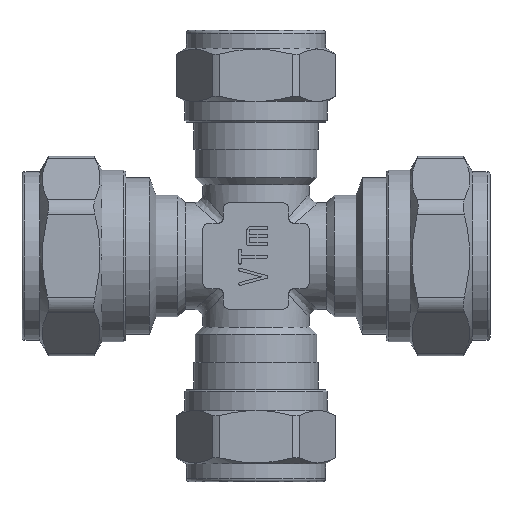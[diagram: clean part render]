
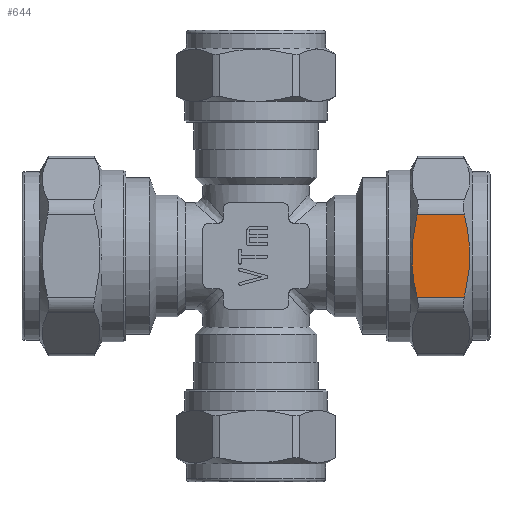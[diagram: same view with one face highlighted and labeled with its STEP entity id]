
A CAD part, left-side view. The second image highlights one B-rep face of the part: STEP entity #644.
In plain terms, the highlighted planar face has unit normal (-1, 0, 0).
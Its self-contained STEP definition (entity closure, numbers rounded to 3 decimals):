
#644=ADVANCED_FACE('',(#5761),#5763,.T.);
#5761=FACE_BOUND('',#5762,.T.);
#5762=EDGE_LOOP('',(#14257,#14258,#14259,#14260));
#5763=PLANE('',#5764);
#5764=AXIS2_PLACEMENT_3D('',#5765,#5766,#5767);
#5765=CARTESIAN_POINT('',(-15.,-26.032,8.66));
#5766=DIRECTION('',(-1.,0.,0.));
#5767=DIRECTION('',(0.,0.,-1.));
#14257=ORIENTED_EDGE('',*,*,#20888,.F.);
#14258=ORIENTED_EDGE('',*,*,#19799,.T.);
#14259=ORIENTED_EDGE('',*,*,#20886,.T.);
#14260=ORIENTED_EDGE('',*,*,#20889,.T.);
#19799=EDGE_CURVE('',#23857,#23855,#23858,.T.);
#20886=EDGE_CURVE('',#23855,#25656,#25657,.T.);
#20888=EDGE_CURVE('',#23857,#25659,#25660,.T.);
#20889=EDGE_CURVE('',#25656,#25659,#25661,.T.);
#23855=VERTEX_POINT('',#33207);
#23857=VERTEX_POINT('',#33251);
#23858=B_SPLINE_CURVE_WITH_KNOTS('',3,
(#33252,#33253,#33254,#33255,#33256,#33257,#33258,#33259,#33260,#33261,#33262,#33263,
#33264,#33265,#33266,#33267,#33268,#33269,#33270,#33271,#33272,#33273,#33274,#33275,
#33276,#33277,#33278,#33279,#33280,#33281,#33282,#33283,#33284,#33285,#33286,#33287,
#33288,#33289,#33290,#33291,#33292,#33293),
.UNSPECIFIED.,.F.,.F.,
(4,1,1,1,1,1,1,1,1,1,1,1,1,1,1,1,1,1,1,1,1,1,1,1,1,1,1,1,1,1,1,1,1,1,1,1,1,1,1,4),
(0.,0.016,0.061,0.061,0.131,0.14,
0.208,0.27,0.283,0.338,0.374,
0.399,0.423,0.425,0.448,0.474,
0.5,0.5,0.526,0.552,0.579,
0.615,0.616,0.65,0.685,0.711,
0.737,0.762,0.787,0.812,0.836,
0.837,0.86,0.884,0.907,0.931,
0.954,0.97,0.977,1.),
.UNSPECIFIED.);
#25656=VERTEX_POINT('',#38807);
#25657=LINE('',#38808,#38809);
#25659=VERTEX_POINT('',#38854);
#25660=LINE('',#38855,#38856);
#25661=B_SPLINE_CURVE_WITH_KNOTS('',3,
(#38858,#38859,#38860,#38861,#38862,#38863,#38864,#38865,#38866,#38867,#38868,#38869,
#38870,#38871,#38872,#38873,#38874,#38875,#38876,#38877,#38878,#38879,#38880,#38881,
#38882,#38883,#38884,#38885,#38886,#38887,#38888,#38889,#38890,#38891,#38892,#38893,
#38894,#38895,#38896,#38897,#38898,#38899,#38900,#38901,#38902,#38903,#38904,#38905,
#38906,#38907,#38908,#38909),
.UNSPECIFIED.,.F.,.F.,
(4,1,1,1,1,1,1,1,1,1,1,1,1,1,1,1,1,1,1,1,1,1,1,1,1,1,1,1,1,1,1,1,1,1,1,1,1,1,1,1,
1,1,1,1,1,1,1,1,1,4),
(0.,0.008,0.033,0.036,0.078,
0.086,0.149,0.165,0.208,0.254,
0.285,0.292,0.314,0.34,0.366,
0.368,0.384,0.392,0.412,0.418,
0.445,0.472,0.499,0.5,0.506,
0.526,0.554,0.582,0.61,0.637,
0.653,0.664,0.691,0.717,0.743,
0.767,0.791,0.813,0.823,0.835,
0.856,0.876,0.895,0.914,0.932,
0.95,0.961,0.967,0.984,1.),
.UNSPECIFIED.);
#33207=CARTESIAN_POINT('',(-15.,-27.2,-6.928));
#33251=CARTESIAN_POINT('',(-15.,-27.2,6.928));
#33252=CARTESIAN_POINT('',(-15.,-27.2,6.928));
#33253=CARTESIAN_POINT('',(-15.,-27.182,6.856));
#33254=CARTESIAN_POINT('',(-15.,-27.116,6.58));
#33255=CARTESIAN_POINT('',(-15.,-27.053,6.303));
#33256=CARTESIAN_POINT('',(-15.,-26.939,5.777));
#33257=CARTESIAN_POINT('',(-15.,-26.865,5.414));
#33258=CARTESIAN_POINT('',(-15.,-26.74,4.737));
#33259=CARTESIAN_POINT('',(-15.,-26.634,4.099));
#33260=CARTESIAN_POINT('',(-15.,-26.543,3.439));
#33261=CARTESIAN_POINT('',(-15.,-26.473,2.84));
#33262=CARTESIAN_POINT('',(-15.,-26.424,2.353));
#33263=CARTESIAN_POINT('',(-15.,-26.383,1.815));
#33264=CARTESIAN_POINT('',(-15.,-26.358,1.416));
#33265=CARTESIAN_POINT('',(-15.,-26.347,1.182));
#33266=CARTESIAN_POINT('',(-15.,-26.338,0.951));
#33267=CARTESIAN_POINT('',(-15.,-26.33,0.715));
#33268=CARTESIAN_POINT('',(-15.,-26.322,0.364));
#33269=CARTESIAN_POINT('',(-15.,-26.321,0.123));
#33270=CARTESIAN_POINT('',(-15.,-26.321,-0.12));
#33271=CARTESIAN_POINT('',(-15.,-26.322,-0.366));
#33272=CARTESIAN_POINT('',(-15.,-26.33,-0.736));
#33273=CARTESIAN_POINT('',(-15.,-26.345,-1.151));
#33274=CARTESIAN_POINT('',(-15.,-26.36,-1.449));
#33275=CARTESIAN_POINT('',(-15.,-26.381,-1.78));
#33276=CARTESIAN_POINT('',(-15.,-26.404,-2.108));
#33277=CARTESIAN_POINT('',(-15.,-26.444,-2.549));
#33278=CARTESIAN_POINT('',(-15.,-26.486,-2.951));
#33279=CARTESIAN_POINT('',(-15.,-26.528,-3.306));
#33280=CARTESIAN_POINT('',(-15.,-26.574,-3.657));
#33281=CARTESIAN_POINT('',(-15.,-26.623,-4.002));
#33282=CARTESIAN_POINT('',(-15.,-26.676,-4.343));
#33283=CARTESIAN_POINT('',(-15.,-26.714,-4.571));
#33284=CARTESIAN_POINT('',(-15.,-26.752,-4.794));
#33285=CARTESIAN_POINT('',(-15.,-26.791,-5.014));
#33286=CARTESIAN_POINT('',(-15.,-26.852,-5.339));
#33287=CARTESIAN_POINT('',(-15.,-26.917,-5.663));
#33288=CARTESIAN_POINT('',(-15.,-26.983,-5.983));
#33289=CARTESIAN_POINT('',(-15.,-27.046,-6.269));
#33290=CARTESIAN_POINT('',(-15.,-27.094,-6.479));
#33291=CARTESIAN_POINT('',(-15.,-27.142,-6.689));
#33292=CARTESIAN_POINT('',(-15.,-27.174,-6.824));
#33293=CARTESIAN_POINT('',(-15.,-27.2,-6.928));
#38807=CARTESIAN_POINT('',(-15.,-35.22,-6.928));
#38808=CARTESIAN_POINT('',(-15.,-27.2,-6.928));
#38809=VECTOR('',#38810,1.);
#38810=DIRECTION('',(0.,-1.,0.));
#38854=CARTESIAN_POINT('',(-15.,-35.22,6.928));
#38855=CARTESIAN_POINT('',(-15.,-27.2,6.928));
#38856=VECTOR('',#38857,1.);
#38857=DIRECTION('',(0.,-1.,0.));
#38858=CARTESIAN_POINT('',(-15.,-35.22,-6.928));
#38859=CARTESIAN_POINT('',(-15.,-35.229,-6.89));
#38860=CARTESIAN_POINT('',(-15.,-35.264,-6.742));
#38861=CARTESIAN_POINT('',(-15.,-35.303,-6.577));
#38862=CARTESIAN_POINT('',(-15.,-35.376,-6.259));
#38863=CARTESIAN_POINT('',(-15.,-35.429,-6.016));
#38864=CARTESIAN_POINT('',(-15.,-35.536,-5.501));
#38865=CARTESIAN_POINT('',(-15.,-35.613,-5.104));
#38866=CARTESIAN_POINT('',(-15.,-35.712,-4.542));
#38867=CARTESIAN_POINT('',(-15.,-35.79,-4.057));
#38868=CARTESIAN_POINT('',(-15.,-35.868,-3.501));
#38869=CARTESIAN_POINT('',(-15.,-35.915,-3.114));
#38870=CARTESIAN_POINT('',(-15.,-35.945,-2.839));
#38871=CARTESIAN_POINT('',(-15.,-35.972,-2.587));
#38872=CARTESIAN_POINT('',(-15.,-36.003,-2.242));
#38873=CARTESIAN_POINT('',(-15.,-36.023,-1.987));
#38874=CARTESIAN_POINT('',(-15.,-36.038,-1.779));
#38875=CARTESIAN_POINT('',(-15.,-36.046,-1.657));
#38876=CARTESIAN_POINT('',(-15.,-36.058,-1.456));
#38877=CARTESIAN_POINT('',(-15.,-36.067,-1.298));
#38878=CARTESIAN_POINT('',(-15.,-36.078,-1.05));
#38879=CARTESIAN_POINT('',(-15.,-36.088,-0.77));
#38880=CARTESIAN_POINT('',(-15.,-36.097,-0.393));
#38881=CARTESIAN_POINT('',(-15.,-36.099,-0.136));
#38882=CARTESIAN_POINT('',(-15.,-36.099,0.026));
#38883=CARTESIAN_POINT('',(-15.,-36.099,0.153));
#38884=CARTESIAN_POINT('',(-15.,-36.096,0.406));
#38885=CARTESIAN_POINT('',(-15.,-36.089,0.758));
#38886=CARTESIAN_POINT('',(-15.,-36.075,1.146));
#38887=CARTESIAN_POINT('',(-15.,-36.055,1.533));
#38888=CARTESIAN_POINT('',(-15.,-36.033,1.865));
#38889=CARTESIAN_POINT('',(-15.,-36.013,2.12));
#38890=CARTESIAN_POINT('',(-15.,-35.992,2.371));
#38891=CARTESIAN_POINT('',(-15.,-35.964,2.668));
#38892=CARTESIAN_POINT('',(-15.,-35.925,3.032));
#38893=CARTESIAN_POINT('',(-15.,-35.882,3.383));
#38894=CARTESIAN_POINT('',(-15.,-35.837,3.723));
#38895=CARTESIAN_POINT('',(-15.,-35.789,4.049));
#38896=CARTESIAN_POINT('',(-15.,-35.749,4.306));
#38897=CARTESIAN_POINT('',(-15.,-35.716,4.509));
#38898=CARTESIAN_POINT('',(-15.,-35.683,4.705));
#38899=CARTESIAN_POINT('',(-15.,-35.64,4.95));
#38900=CARTESIAN_POINT('',(-15.,-35.588,5.228));
#38901=CARTESIAN_POINT('',(-15.,-35.536,5.496));
#38902=CARTESIAN_POINT('',(-15.,-35.484,5.753));
#38903=CARTESIAN_POINT('',(-15.,-35.432,6.002));
#38904=CARTESIAN_POINT('',(-15.,-35.385,6.214));
#38905=CARTESIAN_POINT('',(-15.,-35.35,6.371));
#38906=CARTESIAN_POINT('',(-15.,-35.315,6.525));
#38907=CARTESIAN_POINT('',(-15.,-35.274,6.703));
#38908=CARTESIAN_POINT('',(-15.,-35.238,6.854));
#38909=CARTESIAN_POINT('',(-15.,-35.22,6.928));
